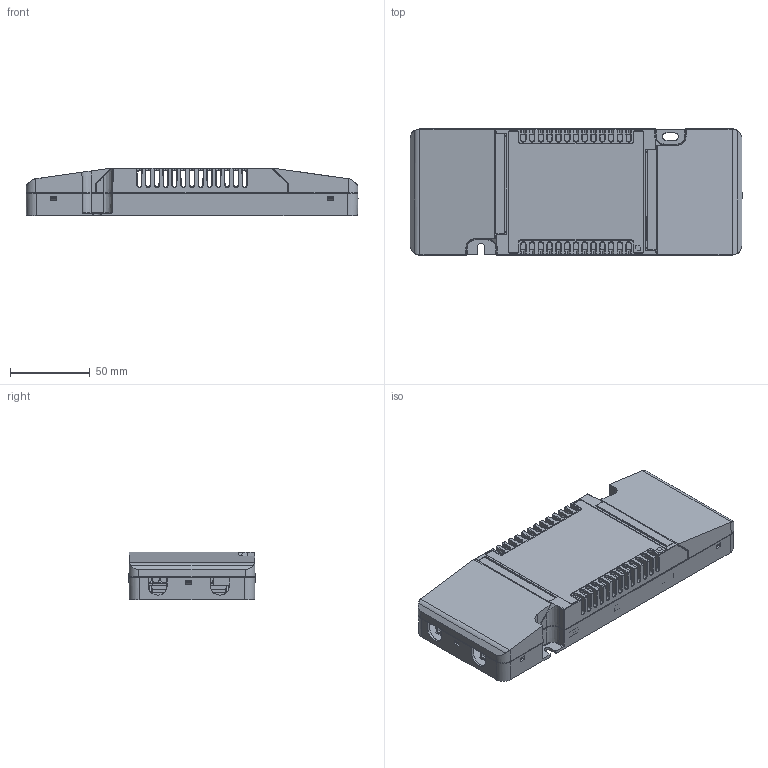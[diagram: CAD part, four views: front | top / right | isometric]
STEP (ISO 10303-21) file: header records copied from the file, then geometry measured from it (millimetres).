
FILE_DESCRIPTION (( 'STEP AP203' ), '1' );
FILE_NAME ('LC51SE-CC-900-1400-LOOP.STEP', '2018-06-20T11:38:04', ( '' ), ( '' ), 'SwSTEP 2.0', 'SolidWorks 2014', '' );
FILE_SCHEMA (( 'CONFIG_CONTROL_DESIGN' ));
Length unit declared in the file: millimetre
Products named in the file (10): LC51SE-CC-900-1400-LOOP; 50w monsteri_kansi; nipsu3; 50w monsteri_vpkansi 4; pCB; 4n; 804-102; 804-102_EI PﾄﾄTYLISUA; pcb; 50w monsteri_pohja 2
Assembly tree (13 placements, depth 3):
  LC51SE-CC-900-1400-LOOP
    50w monsteri_pohja 2
    50w monsteri_kansi
    nipsu3
    50w monsteri_vpkansi 4  x2
    pcb
      pCB
      4n
      804-102
      804-102_EI PﾄﾄTYLISUA  x4
Bounding box: 207.93 x 79.11 x 30 mm (x, y, z)
Volume: 109668.2 mm3; surface area: 140053 mm2
Topology: 14 solids, 16 shells, 3608 faces, 9465 edges, 5901 vertices
Faces by surface type: plane 1753, cylinder 1216, bspline 451, sphere 98, cone 63, torus 27
Entity records: 101045 total; most frequent: CARTESIAN_POINT 31042, ORIENTED_EDGE 15914, DIRECTION 12766, EDGE_CURVE 7957, LINE 5018, VECTOR 5018, VERTEX_POINT 4944, AXIS2_PLACEMENT_3D 3874
